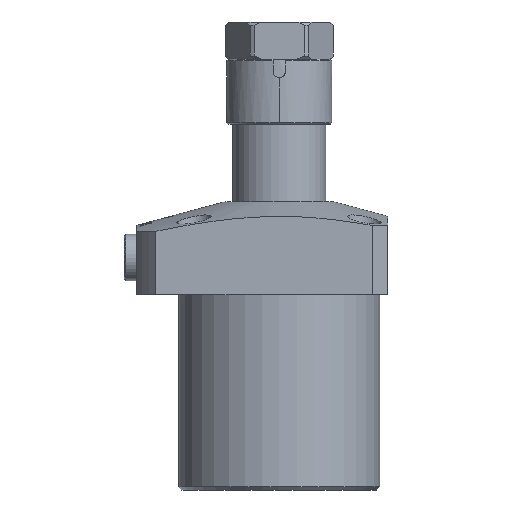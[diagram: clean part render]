
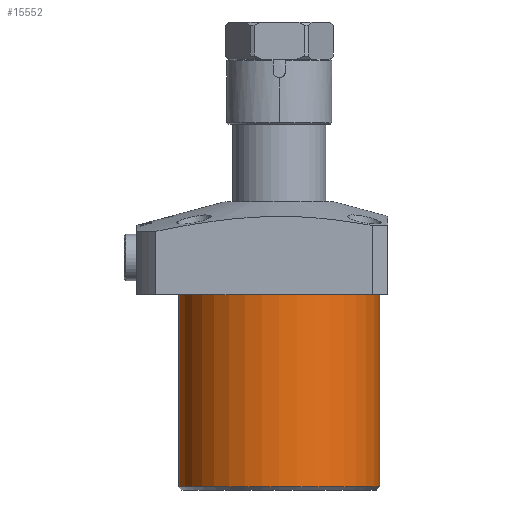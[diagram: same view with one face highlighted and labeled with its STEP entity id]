
A CAD part, front view. The second image highlights one B-rep face of the part: STEP entity #15552.
In plain terms, the highlighted cylindrical face has radius 32.5 mm (diameter 65 mm), a partial arc.
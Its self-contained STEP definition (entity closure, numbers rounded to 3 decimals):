
#7 = CARTESIAN_POINT ( 'NONE',  ( 32.5, 0., -62. ) ) ;
#254 = DIRECTION ( 'NONE',  ( 0., 0., -1. ) ) ;
#587 = EDGE_LOOP ( 'NONE', ( #9255, #14442, #6972, #5645 ) ) ;
#1428 = EDGE_CURVE ( 'NONE', #11709, #8148, #6366, .T. ) ;
#1659 = EDGE_CURVE ( 'NONE', #2402, #11709, #1731, .T. ) ;
#1731 = CIRCLE ( 'NONE', #13376, 32.5 ) ;
#2033 = EDGE_CURVE ( 'NONE', #8148, #13287, #3132, .T. ) ;
#2402 = VERTEX_POINT ( 'NONE', #9862 ) ;
#2864 = DIRECTION ( 'NONE',  ( 1., 0., 0. ) ) ;
#2941 = VECTOR ( 'NONE', #4704, 1000. ) ;
#3132 = CIRCLE ( 'NONE', #9595, 32.5 ) ;
#3422 = CARTESIAN_POINT ( 'NONE',  ( 32.5, 0., -63. ) ) ;
#4172 = DIRECTION ( 'NONE',  ( 0., 0., 1. ) ) ;
#4422 = DIRECTION ( 'NONE',  ( 0., 0., 1. ) ) ;
#4461 = CARTESIAN_POINT ( 'NONE',  ( -32.5, 0., -63. ) ) ;
#4704 = DIRECTION ( 'NONE',  ( 0., 0., 1. ) ) ;
#5645 = ORIENTED_EDGE ( 'NONE', *, *, #2033, .T. ) ;
#6366 = LINE ( 'NONE', #3422, #2941 ) ;
#6972 = ORIENTED_EDGE ( 'NONE', *, *, #1428, .T. ) ;
#7925 = CARTESIAN_POINT ( 'NONE',  ( 0., 0., 0. ) ) ;
#8148 = VERTEX_POINT ( 'NONE', #12223 ) ;
#8328 = DIRECTION ( 'NONE',  ( 0., 0., 1. ) ) ;
#9241 = DIRECTION ( 'NONE',  ( -1., 0., 0. ) ) ;
#9255 = ORIENTED_EDGE ( 'NONE', *, *, #12005, .F. ) ;
#9317 = VECTOR ( 'NONE', #8328, 1000. ) ;
#9595 = AXIS2_PLACEMENT_3D ( 'NONE', #7925, #254, #9241 ) ;
#9686 = AXIS2_PLACEMENT_3D ( 'NONE', #11892, #4172, #2864 ) ;
#9862 = CARTESIAN_POINT ( 'NONE',  ( -32.5, 0., -62. ) ) ;
#11594 = CYLINDRICAL_SURFACE ( 'NONE', #9686, 32.5 ) ;
#11709 = VERTEX_POINT ( 'NONE', #7 ) ;
#11892 = CARTESIAN_POINT ( 'NONE',  ( 0., 0., -63. ) ) ;
#11979 = FACE_OUTER_BOUND ( 'NONE', #587, .T. ) ;
#12005 = EDGE_CURVE ( 'NONE', #2402, #13287, #12759, .T. ) ;
#12128 = CARTESIAN_POINT ( 'NONE',  ( 0., 0., -62. ) ) ;
#12223 = CARTESIAN_POINT ( 'NONE',  ( 32.5, 0., 0. ) ) ;
#12759 = LINE ( 'NONE', #4461, #9317 ) ;
#13287 = VERTEX_POINT ( 'NONE', #14054 ) ;
#13376 = AXIS2_PLACEMENT_3D ( 'NONE', #12128, #4422, #13444 ) ;
#13444 = DIRECTION ( 'NONE',  ( -1., 0., 0. ) ) ;
#14054 = CARTESIAN_POINT ( 'NONE',  ( -32.5, 0., 0. ) ) ;
#14442 = ORIENTED_EDGE ( 'NONE', *, *, #1659, .T. ) ;
#15552 = ADVANCED_FACE ( 'NONE', ( #11979 ), #11594, .T. ) ;
